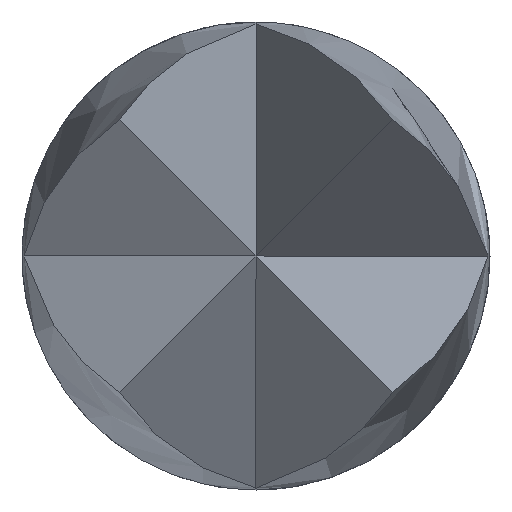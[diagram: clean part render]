
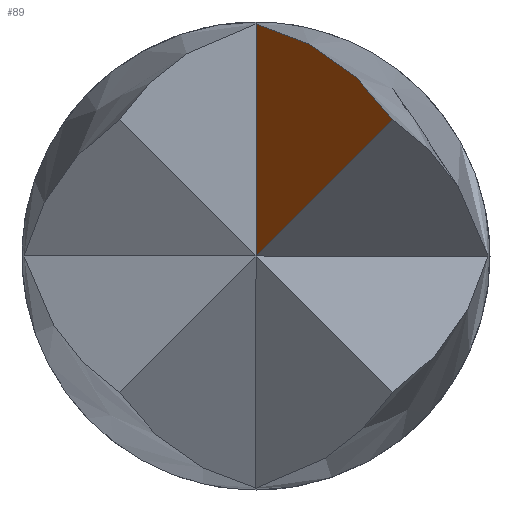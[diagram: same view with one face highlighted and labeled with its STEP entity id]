
A CAD part, left-side view. The second image highlights one B-rep face of the part: STEP entity #89.
In plain terms, the highlighted free-form (B-spline) face has degree [1, 1] with [2, 2] control points.
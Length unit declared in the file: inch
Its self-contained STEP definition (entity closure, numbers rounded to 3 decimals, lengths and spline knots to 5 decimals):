
#23 = B_SPLINE_CURVE_WITH_KNOTS ( 'NONE', 3,
 ( #617, #527, #261, #511 ),
 .UNSPECIFIED., .F., .F.,
 ( 4, 4 ),
 ( 0., 1. ),
 .UNSPECIFIED. ) ;
#45 = CARTESIAN_POINT ( 'NONE',  ( 0.03985, 0., 0.01982 ) ) ;
#74 = CARTESIAN_POINT ( 'NONE',  ( 0.02003, 0., 0. ) ) ;
#89 = ADVANCED_FACE ( 'NONE', ( #699 ), #1051, .F. ) ;
#131 = CARTESIAN_POINT ( 'NONE',  ( 0.02578, -0.0046, 0.01823 ) ) ;
#204 = EDGE_CURVE ( 'NONE', #569, #321, #499, .T. ) ;
#215 = CARTESIAN_POINT ( 'NONE',  ( 0.00571, -0.01031, 0.01369 ) ) ;
#256 = CARTESIAN_POINT ( 'NONE',  ( -0.00164, -0.00793, -0.00012 ) ) ;
#261 = CARTESIAN_POINT ( 'NONE',  ( 0.03324, 0., 0.01321 ) ) ;
#321 = VERTEX_POINT ( 'NONE', #74 ) ;
#322 = ORIENTED_EDGE ( 'NONE', *, *, #325, .F. ) ;
#325 = EDGE_CURVE ( 'NONE', #321, #971, #23, .T. ) ;
#407 = CARTESIAN_POINT ( 'NONE',  ( 0.03276, -0.00239, 0.01923 ) ) ;
#427 = EDGE_LOOP ( 'NONE', ( #322, #583, #790 ) ) ;
#433 = CARTESIAN_POINT ( 'NONE',  ( 0.0377, 0.00655, -0.00012 ) ) ;
#440 = B_SPLINE_CURVE_WITH_KNOTS ( 'NONE', 3,
 ( #1001, #215, #762, #131, #407, #45 ),
 .UNSPECIFIED., .F., .F.,
 ( 4, 2, 4 ),
 ( 0., 0.5, 1. ),
 .UNSPECIFIED. ) ;
#481 = CARTESIAN_POINT ( 'NONE',  ( 0.01335, -0.00389, 0.00389 ) ) ;
#499 = B_SPLINE_CURVE_WITH_KNOTS ( 'NONE', 3,
 ( #577, #854, #481, #924 ),
 .UNSPECIFIED., .F., .F.,
 ( 4, 4 ),
 ( 0., 1. ),
 .UNSPECIFIED. ) ;
#511 = CARTESIAN_POINT ( 'NONE',  ( 0.03985, 0., 0.01982 ) ) ;
#527 = CARTESIAN_POINT ( 'NONE',  ( 0.02664, 0., 0.00661 ) ) ;
#569 = VERTEX_POINT ( 'NONE', #650 ) ;
#577 = CARTESIAN_POINT ( 'NONE',  ( 0., -0.01167, 0.01167 ) ) ;
#583 = ORIENTED_EDGE ( 'NONE', *, *, #204, .F. ) ;
#607 = CARTESIAN_POINT ( 'NONE',  ( 0.00075, -0.01443, 0.01994 ) ) ;
#617 = CARTESIAN_POINT ( 'NONE',  ( 0.02003, 0., 0. ) ) ;
#646 = EDGE_CURVE ( 'NONE', #569, #971, #440, .T. ) ;
#650 = CARTESIAN_POINT ( 'NONE',  ( 0., -0.01167, 0.01167 ) ) ;
#686 = CARTESIAN_POINT ( 'NONE',  ( 0.03985, 0., 0.01982 ) ) ;
#699 = FACE_OUTER_BOUND ( 'NONE', #427, .T. ) ;
#707 = CARTESIAN_POINT ( 'NONE',  ( 0.0401, 0.00005, 0.01994 ) ) ;
#762 = CARTESIAN_POINT ( 'NONE',  ( 0.012, -0.00863, 0.01541 ) ) ;
#790 = ORIENTED_EDGE ( 'NONE', *, *, #646, .T. ) ;
#854 = CARTESIAN_POINT ( 'NONE',  ( 0.00668, -0.00778, 0.00778 ) ) ;
#924 = CARTESIAN_POINT ( 'NONE',  ( 0.02003, 0., 0. ) ) ;
#971 = VERTEX_POINT ( 'NONE', #686 ) ;
#1001 = CARTESIAN_POINT ( 'NONE',  ( 0., -0.01167, 0.01167 ) ) ;
#1051 = B_SPLINE_SURFACE_WITH_KNOTS ( 'NONE', 1, 1, ( 
 ( #256, #607 ),
 ( #433, #707 ) ),
 .UNSPECIFIED., .F., .F., .F.,
 ( 2, 2 ),
 ( 2, 2 ),
 ( 0., 1. ),
 ( 0., 1. ),
 .UNSPECIFIED. ) ;
